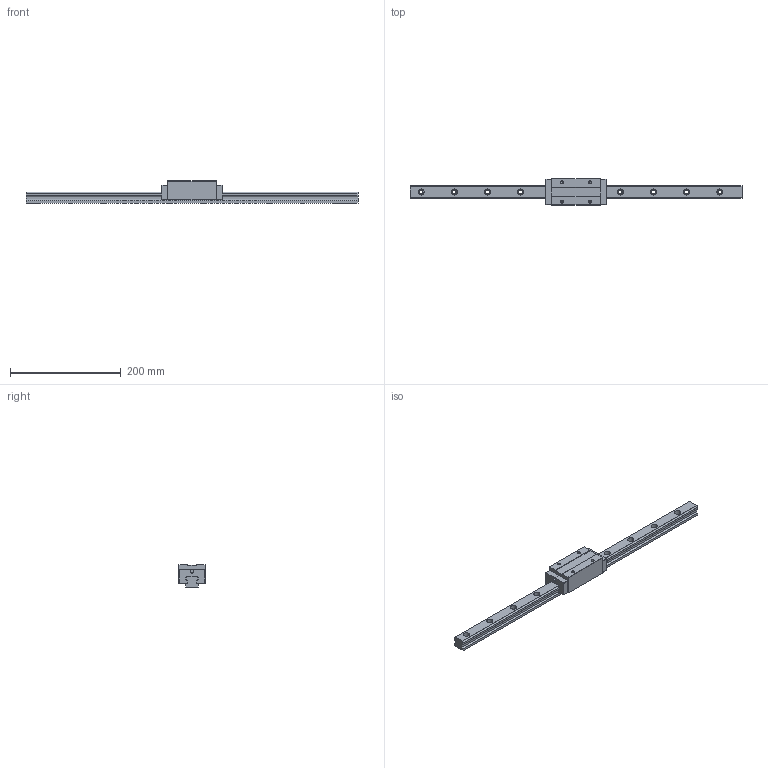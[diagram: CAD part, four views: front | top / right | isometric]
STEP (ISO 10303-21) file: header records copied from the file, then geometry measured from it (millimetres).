
FILE_DESCRIPTION (( 'STEP AP203' ), '1' );
FILE_NAME ('TRH25VE-XNC.STEP', '2024-08-16T06:35:47', ( '' ), ( '' ), 'SwSTEP 2.0', 'SolidWorks 2021', '' );
FILE_SCHEMA (( 'CONFIG_CONTROL_DESIGN' ));
Length unit declared in the file: millimetre
Products named in the file (1): TRH25VE-XNC
Bounding box: 600 x 48 x 40 mm (x, y, z)
Volume: 370896.4 mm3; surface area: 81235.6 mm2
Topology: 1 solids, 1 shells, 185 faces, 500 edges, 322 vertices
Faces by surface type: cylinder 88, plane 81, cone 16
Entity records: 5909 total; most frequent: DIRECTION 1050, CARTESIAN_POINT 1000, ORIENTED_EDGE 984, EDGE_CURVE 492, AXIS2_PLACEMENT_3D 372, VERTEX_POINT 322, LINE 306, VECTOR 306
